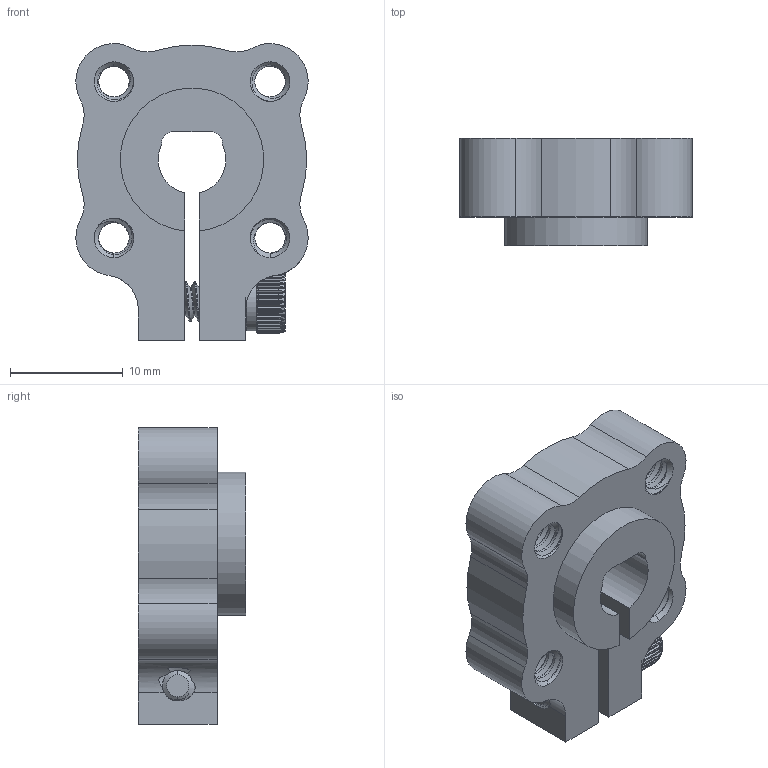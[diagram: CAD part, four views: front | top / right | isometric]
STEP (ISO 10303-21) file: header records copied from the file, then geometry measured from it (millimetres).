
FILE_DESCRIPTION (( 'STEP AP203' ), '1' );
FILE_NAME ('545618 assembly.STEP', '2017-06-30T21:43:41', ( '' ), ( '' ), 'SwSTEP 2.0', 'SolidWorks 2016', '' );
FILE_SCHEMA (( 'CONFIG_CONTROL_DESIGN' ));
Length unit declared in the file: inch
Products named in the file (3): 632110_90128A121; 545618; 545618 assembly
Assembly tree (2 placements, depth 2):
  545618 assembly
    545618
    632110_90128A121
Bounding box: 20.57 x 9.53 x 26.29 mm (x, y, z)
Volume: 2943.9 mm3; surface area: 2613.4 mm2
Topology: 2 solids, 2 shells, 1125 faces, 2805 edges, 1685 vertices
Faces by surface type: cylinder 473, bspline 456, plane 140, cone 37, torus 19
Entity records: 54145 total; most frequent: CARTESIAN_POINT 31645, ORIENTED_EDGE 5610, DIRECTION 3433, EDGE_CURVE 2805, VERTEX_POINT 1685, AXIS2_PLACEMENT_3D 1397, EDGE_LOOP 1138, ADVANCED_FACE 1125
